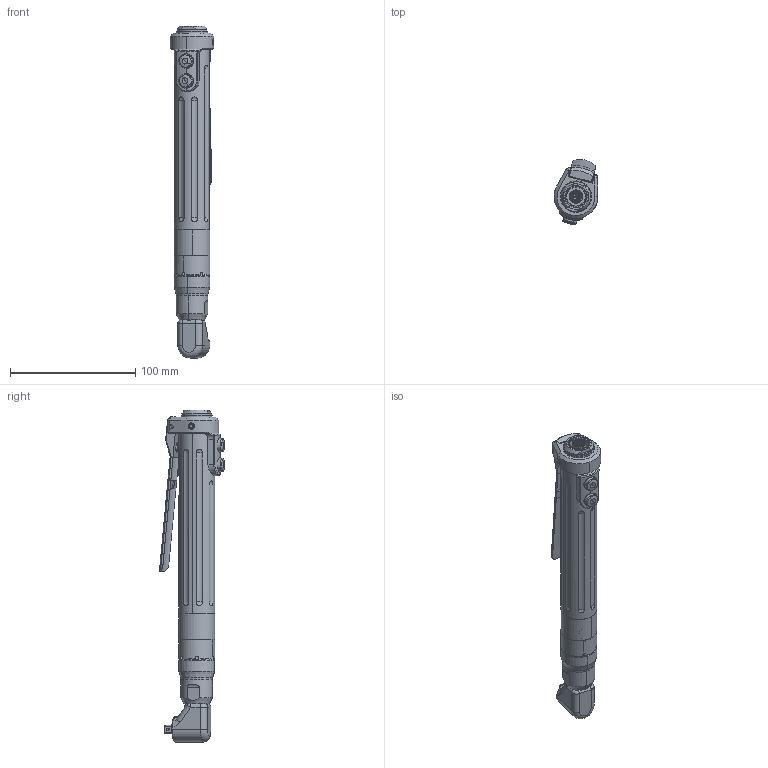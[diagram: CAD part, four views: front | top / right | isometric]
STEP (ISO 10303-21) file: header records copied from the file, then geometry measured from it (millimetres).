
FILE_DESCRIPTION (( 'STEP AP203' ), '1' );
FILE_NAME ('ASG-SD2500-10RP-H.STEP', '2012-10-11T19:07:07', ( '' ), ( '' ), 'SwSTEP 2.0', 'SolidWorks 2012', '' );
FILE_SCHEMA (( 'CONFIG_CONTROL_DESIGN' ));
Length unit declared in the file: inch
Products named in the file (1): ASG-SD2500-10RP-H
Bounding box: 34.94 x 52.07 x 265.38 mm (x, y, z)
Volume: 74486.8 mm3; surface area: 77740 mm2
Topology: 63 solids, 63 shells, 1901 faces, 4869 edges, 3120 vertices
Faces by surface type: plane 835, cylinder 759, cone 119, torus 105, bspline 75, sphere 8
Entity records: 77033 total; most frequent: CARTESIAN_POINT 30581, ORIENTED_EDGE 9674, DIRECTION 9667, EDGE_CURVE 4837, AXIS2_PLACEMENT_3D 3526, VERTEX_POINT 3120, LINE 2615, VECTOR 2615
